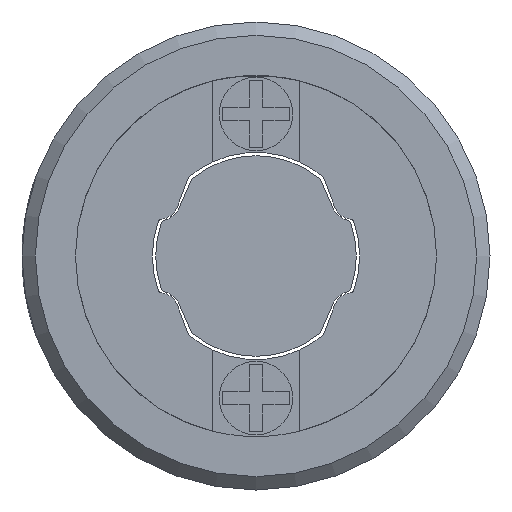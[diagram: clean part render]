
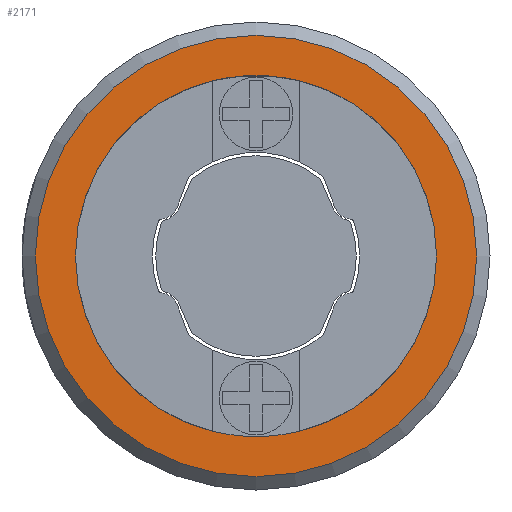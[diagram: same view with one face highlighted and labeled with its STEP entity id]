
A CAD part, left-side view. The second image highlights one B-rep face of the part: STEP entity #2171.
In plain terms, the highlighted planar face has unit normal (-1, 0, 0).
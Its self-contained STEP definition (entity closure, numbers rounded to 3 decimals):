
#44=PLANE('',#2387);
#767=ORIENTED_EDGE('',*,*,#1329,.F.);
#768=ORIENTED_EDGE('',*,*,#1304,.T.);
#1304=EDGE_CURVE('',#1599,#1599,#1794,.T.);
#1329=EDGE_CURVE('',#1616,#1616,#1803,.T.);
#1599=VERTEX_POINT('',#3372);
#1616=VERTEX_POINT('',#3417);
#1794=CIRCLE('',#2376,2.7);
#1803=CIRCLE('',#2388,3.3);
#1854=EDGE_LOOP('',(#767));
#1855=EDGE_LOOP('',(#768));
#1996=FACE_BOUND('',#1854,.T.);
#1997=FACE_BOUND('',#1855,.T.);
#2171=ADVANCED_FACE('',(#1996,#1997),#44,.F.);
#2376=AXIS2_PLACEMENT_3D('',#3371,#2714,#2715);
#2387=AXIS2_PLACEMENT_3D('',#3415,#2752,#2753);
#2388=AXIS2_PLACEMENT_3D('',#3416,#2754,#2755);
#2714=DIRECTION('',(1.,0.,0.));
#2715=DIRECTION('',(0.,0.,-1.));
#2752=DIRECTION('',(1.,0.,0.));
#2753=DIRECTION('',(0.,0.,-1.));
#2754=DIRECTION('',(1.,0.,0.));
#2755=DIRECTION('',(0.,0.,-1.));
#3371=CARTESIAN_POINT('',(-3.25,0.,0.));
#3372=CARTESIAN_POINT('',(-3.25,0.,-2.7));
#3415=CARTESIAN_POINT('',(-3.25,2.7,0.));
#3416=CARTESIAN_POINT('',(-3.25,0.,0.));
#3417=CARTESIAN_POINT('',(-3.25,0.,-3.3));
